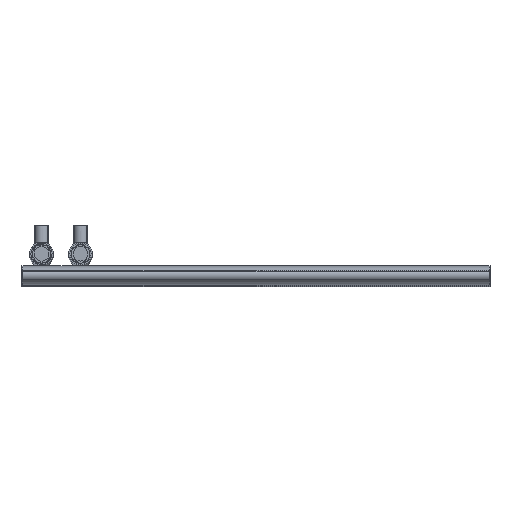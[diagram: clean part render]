
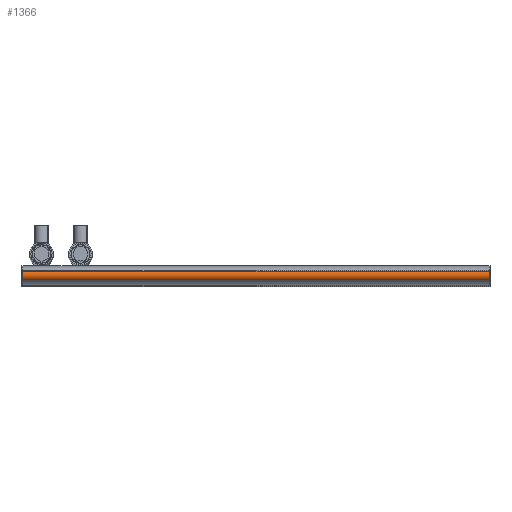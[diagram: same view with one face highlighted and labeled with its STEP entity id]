
A CAD part, top view. The second image highlights one B-rep face of the part: STEP entity #1366.
In plain terms, the highlighted cylindrical face has radius 7.112 mm (diameter 14.225 mm), a partial arc.
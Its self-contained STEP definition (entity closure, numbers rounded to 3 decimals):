
#167=LINE('',#3918,#199);
#170=LINE('',#3933,#202);
#199=VECTOR('',#1700,10.);
#202=VECTOR('',#1717,10.);
#289=CIRCLE('',#1501,7.112);
#290=CIRCLE('',#1502,7.112);
#442=FACE_OUTER_BOUND('',#589,.T.);
#589=EDGE_LOOP('',(#1184,#1185,#1186,#1187));
#792=VERTEX_POINT('',#3914);
#794=VERTEX_POINT('',#3917);
#798=VERTEX_POINT('',#3929);
#799=VERTEX_POINT('',#3931);
#928=EDGE_CURVE('',#792,#794,#167,.T.);
#936=EDGE_CURVE('',#798,#799,#170,.T.);
#937=EDGE_CURVE('',#798,#792,#289,.T.);
#938=EDGE_CURVE('',#794,#799,#290,.T.);
#1184=ORIENTED_EDGE('',*,*,#937,.F.);
#1185=ORIENTED_EDGE('',*,*,#936,.T.);
#1186=ORIENTED_EDGE('',*,*,#938,.F.);
#1187=ORIENTED_EDGE('',*,*,#928,.F.);
#1321=CYLINDRICAL_SURFACE('',#1500,7.112);
#1366=ADVANCED_FACE('',(#442),#1321,.T.);
#1500=AXIS2_PLACEMENT_3D('',#3934,#1718,#1719);
#1501=AXIS2_PLACEMENT_3D('',#3935,#1720,#1721);
#1502=AXIS2_PLACEMENT_3D('',#3936,#1722,#1723);
#1700=DIRECTION('',(0.,0.,-1.));
#1717=DIRECTION('',(0.,0.,-1.));
#1718=DIRECTION('center_axis',(0.,0.,-1.));
#1719=DIRECTION('ref_axis',(0.552,-0.834,0.));
#1720=DIRECTION('center_axis',(0.,0.,1.));
#1721=DIRECTION('ref_axis',(0.552,-0.834,0.));
#1722=DIRECTION('center_axis',(0.,0.,-1.));
#1723=DIRECTION('ref_axis',(0.552,-0.834,0.));
#3914=CARTESIAN_POINT('',(21.816,-6.571,0.));
#3917=CARTESIAN_POINT('',(21.816,-6.571,-600.));
#3918=CARTESIAN_POINT('',(21.816,-6.571,0.));
#3929=CARTESIAN_POINT('',(21.816,-18.429,0.));
#3931=CARTESIAN_POINT('',(21.816,-18.429,-600.));
#3933=CARTESIAN_POINT('',(21.816,-18.429,0.));
#3934=CARTESIAN_POINT('Origin',(17.888,-12.5,0.));
#3935=CARTESIAN_POINT('Origin',(17.888,-12.5,0.));
#3936=CARTESIAN_POINT('Origin',(17.888,-12.5,-600.));
